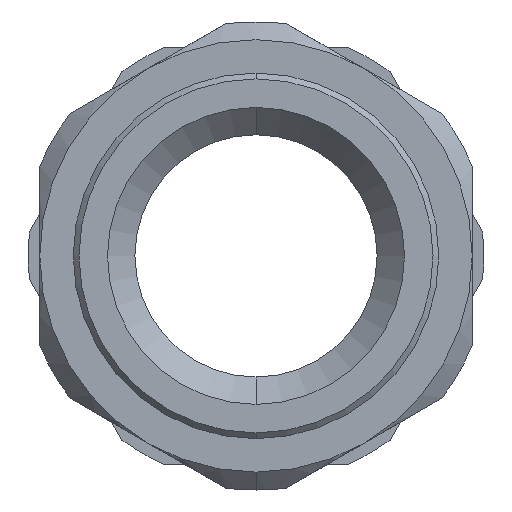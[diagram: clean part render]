
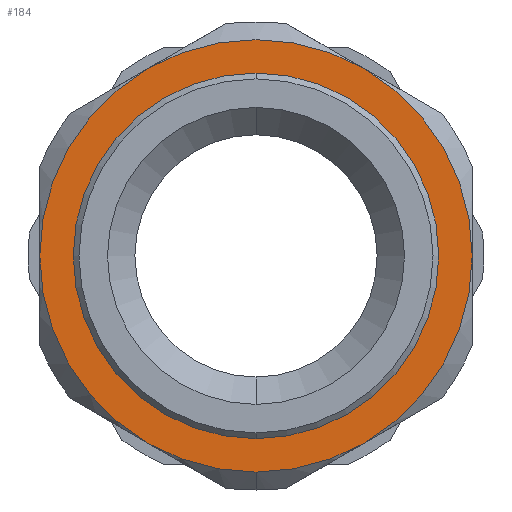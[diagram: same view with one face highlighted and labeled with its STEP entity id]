
A CAD part, front view. The second image highlights one B-rep face of the part: STEP entity #184.
In plain terms, the highlighted planar face has unit normal (0, -1, 0).
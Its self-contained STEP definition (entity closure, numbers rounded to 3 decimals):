
#68 = DIRECTION ( 'NONE',  ( 0., 0., -1. ) ) ;
#73 = DIRECTION ( 'NONE',  ( 0., -1., 0. ) ) ;
#94 = CARTESIAN_POINT ( 'NONE',  ( 0., 1., 0. ) ) ;
#153 = EDGE_CURVE ( 'NONE', #2137, #2218, #793, .T. ) ;
#184 = ADVANCED_FACE ( 'NONE', ( #466, #467 ), #1607, .F. ) ;
#238 = EDGE_CURVE ( 'NONE', #2132, #2270, #760, .T. ) ;
#319 = EDGE_CURVE ( 'NONE', #2126, #2202, #733, .T. ) ;
#324 = EDGE_CURVE ( 'NONE', #2270, #2132, #730, .T. ) ;
#391 = AXIS2_PLACEMENT_3D ( 'NONE', #1606, #1605, #1604 ) ;
#427 = AXIS2_PLACEMENT_3D ( 'NONE', #1430, #1423, #1422 ) ;
#466 = FACE_BOUND ( 'NONE', #1090, .T. ) ;
#467 = FACE_OUTER_BOUND ( 'NONE', #1140, .T. ) ;
#522 = AXIS2_PLACEMENT_3D ( 'NONE', #908, #2441, #2439 ) ;
#527 = AXIS2_PLACEMENT_3D ( 'NONE', #2469, #2468, #2467 ) ;
#574 = AXIS2_PLACEMENT_3D ( 'NONE', #1102, #1098, #1097 ) ;
#575 = AXIS2_PLACEMENT_3D ( 'NONE', #94, #73, #68 ) ;
#612 = AXIS2_PLACEMENT_3D ( 'NONE', #854, #883, #869 ) ;
#630 = AXIS2_PLACEMENT_3D ( 'NONE', #846, #888, #910 ) ;
#631 = AXIS2_PLACEMENT_3D ( 'NONE', #2477, #2432, #2478 ) ;
#698 = CIRCLE ( 'NONE', #527, 18.75 ) ;
#701 = CIRCLE ( 'NONE', #631, 18.75 ) ;
#702 = CIRCLE ( 'NONE', #522, 18.75 ) ;
#706 = CIRCLE ( 'NONE', #630, 18.75 ) ;
#709 = CIRCLE ( 'NONE', #612, 18.75 ) ;
#730 = CIRCLE ( 'NONE', #575, 15.85 ) ;
#733 = CIRCLE ( 'NONE', #574, 18.75 ) ;
#760 = CIRCLE ( 'NONE', #427, 15.85 ) ;
#793 = CIRCLE ( 'NONE', #929, 18.75 ) ;
#808 = EDGE_CURVE ( 'NONE', #2218, #2215, #709, .T. ) ;
#812 = EDGE_CURVE ( 'NONE', #2204, #2137, #706, .T. ) ;
#821 = EDGE_CURVE ( 'NONE', #2151, #2204, #702, .T. ) ;
#822 = EDGE_CURVE ( 'NONE', #2202, #2151, #701, .T. ) ;
#825 = EDGE_CURVE ( 'NONE', #2215, #2126, #698, .T. ) ;
#846 = CARTESIAN_POINT ( 'NONE',  ( 0., 1., 0. ) ) ;
#854 = CARTESIAN_POINT ( 'NONE',  ( 0., 1., 0. ) ) ;
#869 = DIRECTION ( 'NONE',  ( 0., 0., -1. ) ) ;
#883 = DIRECTION ( 'NONE',  ( 0., -1., 0. ) ) ;
#888 = DIRECTION ( 'NONE',  ( 0., -1., 0. ) ) ;
#908 = CARTESIAN_POINT ( 'NONE',  ( 0., 1., 0. ) ) ;
#910 = DIRECTION ( 'NONE',  ( 0., 0., -1. ) ) ;
#929 = AXIS2_PLACEMENT_3D ( 'NONE', #1710, #1703, #1702 ) ;
#1090 = EDGE_LOOP ( 'NONE', ( #1940, #1941 ) ) ;
#1097 = DIRECTION ( 'NONE',  ( 0., 0., -1. ) ) ;
#1098 = DIRECTION ( 'NONE',  ( 0., -1., 0. ) ) ;
#1102 = CARTESIAN_POINT ( 'NONE',  ( 0., 1., 0. ) ) ;
#1140 = EDGE_LOOP ( 'NONE', ( #1854, #1850, #1855, #1853, #1852, #1851, #1849 ) ) ;
#1422 = DIRECTION ( 'NONE',  ( 0., 0., -1. ) ) ;
#1423 = DIRECTION ( 'NONE',  ( 0., -1., 0. ) ) ;
#1430 = CARTESIAN_POINT ( 'NONE',  ( 0., 1., 0. ) ) ;
#1604 = DIRECTION ( 'NONE',  ( 0., 0., 1. ) ) ;
#1605 = DIRECTION ( 'NONE',  ( 0., 1., 0. ) ) ;
#1606 = CARTESIAN_POINT ( 'NONE',  ( -20.3, 1., 0. ) ) ;
#1607 = PLANE ( 'NONE',  #391 ) ;
#1702 = DIRECTION ( 'NONE',  ( 0., 0., -1. ) ) ;
#1703 = DIRECTION ( 'NONE',  ( 0., -1., 0. ) ) ;
#1710 = CARTESIAN_POINT ( 'NONE',  ( 0., 1., 0. ) ) ;
#1849 = ORIENTED_EDGE ( 'NONE', *, *, #808, .T. ) ;
#1850 = ORIENTED_EDGE ( 'NONE', *, *, #319, .T. ) ;
#1851 = ORIENTED_EDGE ( 'NONE', *, *, #153, .T. ) ;
#1852 = ORIENTED_EDGE ( 'NONE', *, *, #812, .T. ) ;
#1853 = ORIENTED_EDGE ( 'NONE', *, *, #821, .T. ) ;
#1854 = ORIENTED_EDGE ( 'NONE', *, *, #825, .T. ) ;
#1855 = ORIENTED_EDGE ( 'NONE', *, *, #822, .T. ) ;
#1940 = ORIENTED_EDGE ( 'NONE', *, *, #238, .F. ) ;
#1941 = ORIENTED_EDGE ( 'NONE', *, *, #324, .F. ) ;
#2126 = VERTEX_POINT ( 'NONE', #2442 ) ;
#2132 = VERTEX_POINT ( 'NONE', #2434 ) ;
#2137 = VERTEX_POINT ( 'NONE', #2428 ) ;
#2151 = VERTEX_POINT ( 'NONE', #2414 ) ;
#2202 = VERTEX_POINT ( 'NONE', #2377 ) ;
#2204 = VERTEX_POINT ( 'NONE', #2364 ) ;
#2215 = VERTEX_POINT ( 'NONE', #2376 ) ;
#2218 = VERTEX_POINT ( 'NONE', #2336 ) ;
#2270 = VERTEX_POINT ( 'NONE', #2346 ) ;
#2336 = CARTESIAN_POINT ( 'NONE',  ( 9.375, 1., -16.238 ) ) ;
#2346 = CARTESIAN_POINT ( 'NONE',  ( 0., 1., 15.85 ) ) ;
#2364 = CARTESIAN_POINT ( 'NONE',  ( -9.375, 1., -16.238 ) ) ;
#2376 = CARTESIAN_POINT ( 'NONE',  ( 18.75, 1., 0. ) ) ;
#2377 = CARTESIAN_POINT ( 'NONE',  ( -9.375, 1., 16.238 ) ) ;
#2414 = CARTESIAN_POINT ( 'NONE',  ( -18.75, 1., 0. ) ) ;
#2428 = CARTESIAN_POINT ( 'NONE',  ( 0., 1., -18.75 ) ) ;
#2432 = DIRECTION ( 'NONE',  ( 0., -1., 0. ) ) ;
#2434 = CARTESIAN_POINT ( 'NONE',  ( 0., 1., -15.85 ) ) ;
#2439 = DIRECTION ( 'NONE',  ( 0., 0., -1. ) ) ;
#2441 = DIRECTION ( 'NONE',  ( 0., -1., 0. ) ) ;
#2442 = CARTESIAN_POINT ( 'NONE',  ( 9.375, 1., 16.238 ) ) ;
#2467 = DIRECTION ( 'NONE',  ( 0., 0., -1. ) ) ;
#2468 = DIRECTION ( 'NONE',  ( 0., -1., 0. ) ) ;
#2469 = CARTESIAN_POINT ( 'NONE',  ( 0., 1., 0. ) ) ;
#2477 = CARTESIAN_POINT ( 'NONE',  ( 0., 1., 0. ) ) ;
#2478 = DIRECTION ( 'NONE',  ( 0., 0., -1. ) ) ;
